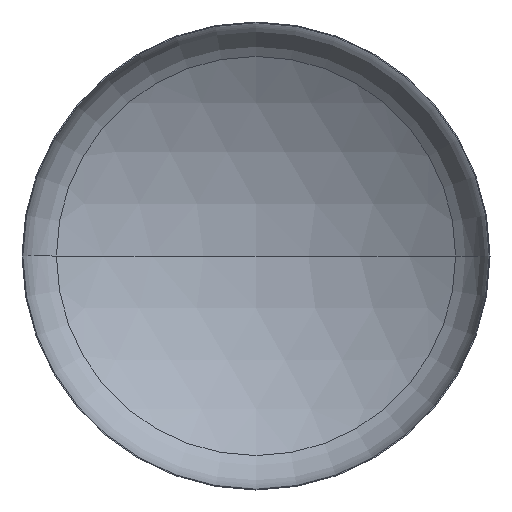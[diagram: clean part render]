
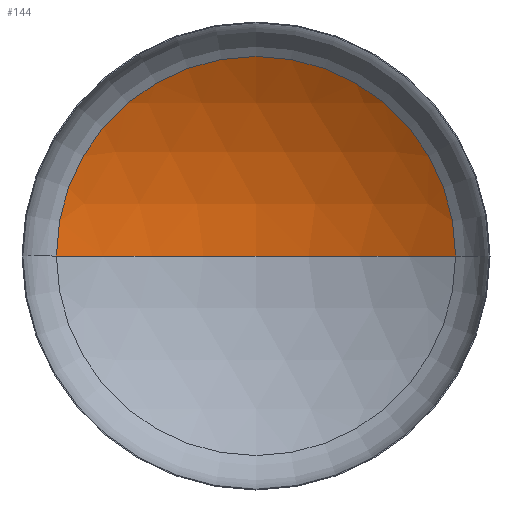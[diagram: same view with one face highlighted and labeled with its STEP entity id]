
A CAD part, front view. The second image highlights one B-rep face of the part: STEP entity #144.
In plain terms, the highlighted spherical face has radius 6400 mm.
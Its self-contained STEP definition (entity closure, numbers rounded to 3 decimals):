
#6 = VERTEX_POINT ( 'NONE', #69 ) ;
#8 = ORIENTED_EDGE ( 'NONE', *, *, #173, .T. ) ;
#9 = VERTEX_POINT ( 'NONE', #281 ) ;
#13 = DIRECTION ( 'NONE',  ( -1., 0., 0. ) ) ;
#68 = VERTEX_POINT ( 'NONE', #252 ) ;
#69 = CARTESIAN_POINT ( 'NONE',  ( 3411.683, 1085.663, 0. ) ) ;
#78 = AXIS2_PLACEMENT_3D ( 'NONE', #382, #335, #161 ) ;
#82 = AXIS2_PLACEMENT_3D ( 'NONE', #197, #220, #13 ) ;
#100 = ORIENTED_EDGE ( 'NONE', *, *, #170, .T. ) ;
#101 = AXIS2_PLACEMENT_3D ( 'NONE', #209, #202, #208 ) ;
#111 = ORIENTED_EDGE ( 'NONE', *, *, #175, .F. ) ;
#118 = CIRCLE ( 'NONE', #78, 6400. ) ;
#130 = AXIS2_PLACEMENT_3D ( 'NONE', #228, #216, #316 ) ;
#144 = ADVANCED_FACE ( 'NONE', ( #409 ), #231, .F. ) ;
#161 = DIRECTION ( 'NONE',  ( 1., 0., 0. ) ) ;
#170 = EDGE_CURVE ( 'NONE', #6, #68, #339, .T. ) ;
#173 = EDGE_CURVE ( 'NONE', #9, #6, #279, .T. ) ;
#175 = EDGE_CURVE ( 'NONE', #9, #68, #118, .T. ) ;
#197 = CARTESIAN_POINT ( 'NONE',  ( 0., -4329.17, 0. ) ) ;
#202 = DIRECTION ( 'NONE',  ( 0., -1., 0. ) ) ;
#208 = DIRECTION ( 'NONE',  ( 1., 0., 0. ) ) ;
#209 = CARTESIAN_POINT ( 'NONE',  ( 0., 1085.663, 0. ) ) ;
#216 = DIRECTION ( 'NONE',  ( 0., 0., -1. ) ) ;
#220 = DIRECTION ( 'NONE',  ( 0., 0., -1. ) ) ;
#228 = CARTESIAN_POINT ( 'NONE',  ( 0., -4329.17, 0. ) ) ;
#231 = SPHERICAL_SURFACE ( 'NONE', #130, 6400. ) ;
#252 = CARTESIAN_POINT ( 'NONE',  ( -3411.683, 1085.663, 0. ) ) ;
#279 = CIRCLE ( 'NONE', #82, 6400. ) ;
#281 = CARTESIAN_POINT ( 'NONE',  ( 0., 2070.83, 0. ) ) ;
#316 = DIRECTION ( 'NONE',  ( -1., 0., 0. ) ) ;
#335 = DIRECTION ( 'NONE',  ( 0., 0., 1. ) ) ;
#339 = CIRCLE ( 'NONE', #101, 3411.683 ) ;
#366 = EDGE_LOOP ( 'NONE', ( #111, #8, #100 ) ) ;
#382 = CARTESIAN_POINT ( 'NONE',  ( 0., -4329.17, 0. ) ) ;
#409 = FACE_OUTER_BOUND ( 'NONE', #366, .T. ) ;
